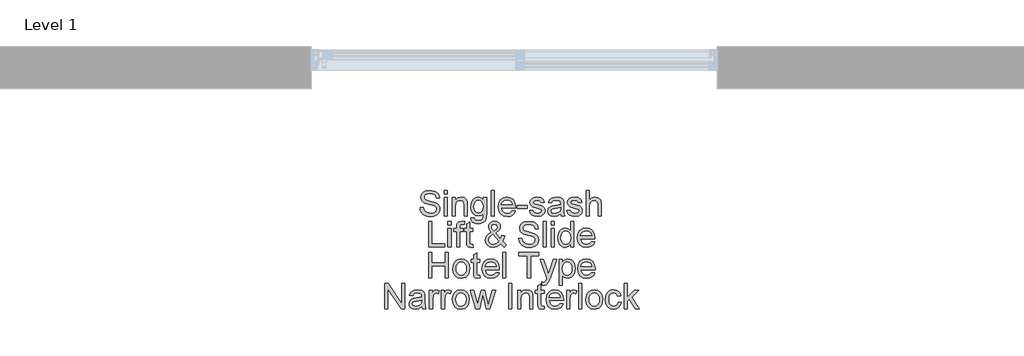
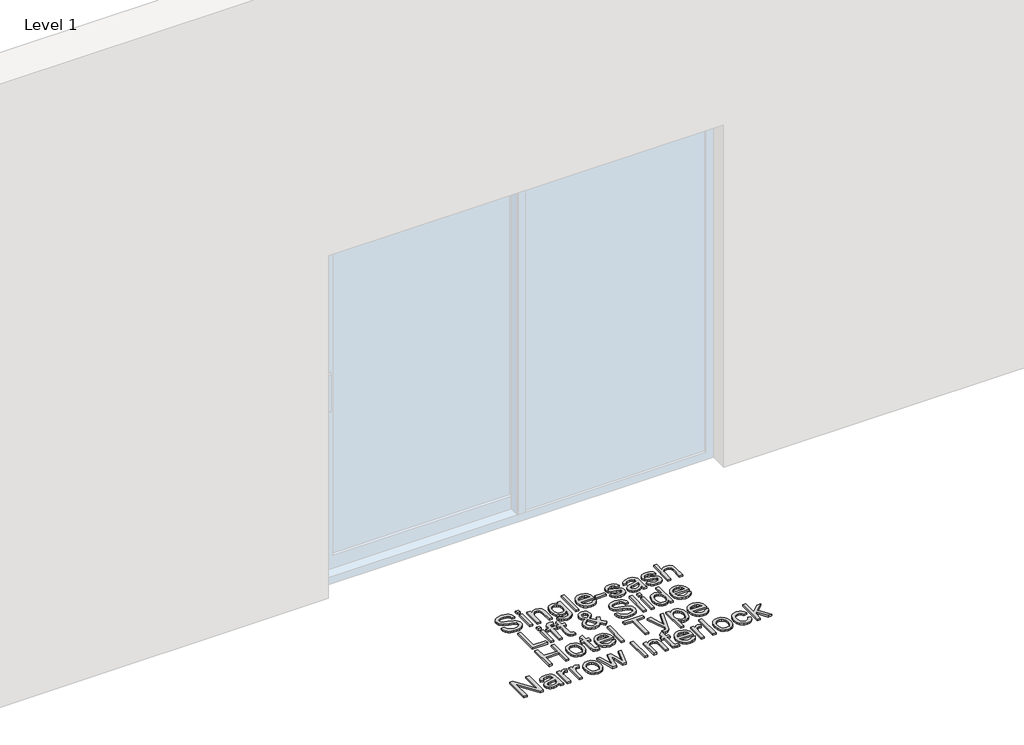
# One storey, part 9 of 17: 1 proxy.
"""IFC4 building model written with IfcOpenShell, lengths in millimetres."""

import ifcopenshell
import ifcopenshell.guid

model = None  # the IFC model being written
_history = None  # IfcOwnerHistory: only IFC2X3 demands one
_inside = {}  # id of a spatial element -> (the spatial element, [elements in it])
_under = {}  # id of a project, library or spatial element -> (it, [spatial elements below it])
_declared = {}  # id of a project -> (the project, [libraries it declares])
_typed = {}  # id of a type object -> (the type object, [elements of that type])
_made_of = {}  # id of a material, layer set ... -> (it, [elements and type objects made of it])


def new_model(schema):
    """Start an empty IFC model of exactly this schema.

    Asked for "IFC4X3", IfcOpenShell would pick the latest addendum, in which some entities
    have other attributes; the version numbers below select the first issue.
    IFC2X3 requires an IfcOwnerHistory on every rooted entity: one is made here for all.
    """
    global model, _history
    if schema == "IFC4X3":
        model = ifcopenshell.file(schema_version=(4, 3, 0, 0))
    else:
        model = ifcopenshell.file(schema=schema)
    _inside.clear()
    _under.clear()
    _declared.clear()
    _typed.clear()
    _made_of.clear()
    _history = None
    if model.schema == "IFC2X3":
        org = make("IfcOrganization", Name="unknown")
        user = make(
            "IfcPersonAndOrganization",
            ThePerson=make("IfcPerson", FamilyName="unknown"),
            TheOrganization=org,
        )
        app = make(
            "IfcApplication",
            ApplicationDeveloper=org,
            Version="unknown",
            ApplicationFullName="unknown",
            ApplicationIdentifier="unknown",
        )
        _history = make(
            "IfcOwnerHistory",
            OwningUser=user,
            OwningApplication=app,
            ChangeAction="ADDED",
            CreationDate=0,
        )
    return model


def make(cls, **values):
    """One entity of the class cls with the attributes given. An attribute that is None is left unset."""
    return model.create_entity(
        cls, **{name: value for name, value in values.items() if value is not None}
    )


def rooted(cls, **values):
    """An entity with a GlobalId (a new one), such as an element, a storey or a relation."""
    return make(cls, GlobalId=ifcopenshell.guid.new(), OwnerHistory=_history, **values)


def si_unit(unit_type, name, prefix=None):
    """IfcSIUnit, for example si_unit("LENGTHUNIT", "METRE", prefix="MILLI")."""
    return make("IfcSIUnit", UnitType=unit_type, Prefix=prefix, Name=name)


def assignment(units):
    """IfcUnitAssignment: the units of a project."""
    return None if units is None else make("IfcUnitAssignment", Units=units)


def point(xyz):
    """IfcCartesianPoint."""
    return None if xyz is None else make("IfcCartesianPoint", Coordinates=xyz)


def direction(xyz):
    """IfcDirection."""
    return None if xyz is None else make("IfcDirection", DirectionRatios=xyz)


def frame(location, z_axis=None, x_axis=None):
    """IfcAxis2Placement3D, a coordinate frame: its origin and axes. An axis left out is left unset."""
    return make(
        "IfcAxis2Placement3D",
        Location=point(location),
        Axis=direction(z_axis),
        RefDirection=direction(x_axis),
    )


def origin():
    """The frame at (0, 0, 0) with its axes left unset."""
    return frame((0.0, 0.0, 0.0))


def origin_with_axes():
    """The frame at (0, 0, 0) with the z axis (0, 0, 1) and the x axis (1, 0, 0) written out."""
    return frame((0.0, 0.0, 0.0), z_axis=(0.0, 0.0, 1.0), x_axis=(1.0, 0.0, 0.0))


def place(relative_to, where):
    """IfcLocalPlacement: puts the frame where relative to a parent placement (None: the world)."""
    return make(
        "IfcLocalPlacement", PlacementRelTo=relative_to, RelativePlacement=where
    )


def context(
    kind, dimensions, precision=None, world=None, true_north=None, identifier=None
):
    """IfcGeometricRepresentationContext, for example the 3D "Model" context."""
    return make(
        "IfcGeometricRepresentationContext",
        ContextIdentifier=identifier,
        ContextType=kind,
        CoordinateSpaceDimension=dimensions,
        Precision=precision,
        WorldCoordinateSystem=world,
        TrueNorth=true_north,
    )


def project(units=None, contexts=None):
    """IfcProject with its units and contexts."""
    return rooted(
        "IfcProject",
        Name="project",
        RepresentationContexts=contexts,
        UnitsInContext=assignment(units),
    )


def spatial(cls, under=None, at=None, **own):
    """A site, building, storey or space (cls), placed at a placement, below another one or the project."""
    s = rooted(cls, ObjectPlacement=at, **own)
    if under is not None:
        _under.setdefault(under.id(), (under, []))[1].append(s)
    return s


def polyline(points):
    """IfcPolyline through the points."""
    return make("IfcPolyline", Points=[point(p) for p in points])


def outline(outer, holes=None, kind="AREA"):
    """IfcArbitraryClosedProfileDef: a profile drawn as a closed curve; with holes, ...WithVoids."""
    if holes is None:
        return make("IfcArbitraryClosedProfileDef", ProfileType=kind, OuterCurve=outer)
    return make(
        "IfcArbitraryProfileDefWithVoids",
        ProfileType=kind,
        OuterCurve=outer,
        InnerCurves=holes,
    )


def extrude(swept, where, along, depth):
    """IfcExtrudedAreaSolid: the profile swept, set in the frame where, extruded along a direction by depth."""
    return make(
        "IfcExtrudedAreaSolid",
        SweptArea=swept,
        Position=where,
        ExtrudedDirection=direction(along),
        Depth=depth,
    )


def shape(context_of_items, identifier, shape_type, items):
    """IfcShapeRepresentation: the items that make up one representation, for example the "Body"."""
    return make(
        "IfcShapeRepresentation",
        ContextOfItems=context_of_items,
        RepresentationIdentifier=identifier,
        RepresentationType=shape_type,
        Items=items,
    )


def made_of(thing, what):
    """Note that an element or type object is made of a material, layer set ...; save() writes the relation."""
    if what is not None:
        _made_of.setdefault(what.id(), (what, []))[1].append(thing)
    return thing


def element(
    cls,
    number,
    at=None,
    inside=None,
    cuts=None,
    type_object=None,
    material=None,
    context=None,
    identifier="Body",
    shape_type=None,
    held_by="IfcProductDefinitionShape",
    body=None,
    shapes=None,
    **own,
):
    """One element of the class cls, such as IfcWall. Its Tag is "e" and its number.

    at: its placement. inside: the storey or other place that contains it. cuts: it is an
    opening in that element (IfcRelVoidsElement). A single representation is given by context,
    identifier, shape_type and body (its items); several are given by shapes. held_by: the class
    of the entity that holds the representations. save() writes the other relations.
    """
    e = rooted(cls, Tag="e%d" % number, ObjectPlacement=at, **own)
    if body is not None:
        shapes = [shape(context, identifier, shape_type, body)]
    if shapes is not None:
        e.Representation = make(held_by, Representations=shapes)
    if inside is not None:
        _inside.setdefault(inside.id(), (inside, []))[1].append(e)
    if cuts is not None:
        rooted(
            "IfcRelVoidsElement", RelatingBuildingElement=cuts, RelatedOpeningElement=e
        )
    if type_object is not None:
        _typed.setdefault(type_object.id(), (type_object, []))[1].append(e)
    return made_of(e, material)


def aggregate(whole, parts):
    """IfcRelAggregates: a whole, such as a stair, and the parts it consists of."""
    return rooted("IfcRelAggregates", RelatingObject=whole, RelatedObjects=parts)


def save(model, path):
    """Write the relations noted so far, then the file.

    IfcRelAggregates (storeys below a building ...), IfcRelContainedInSpatialStructure (elements
    in a storey), IfcRelDefinesByType, IfcRelAssociatesMaterial and IfcRelDeclares: one each for
    every whole, place, type object, material and project.
    """
    for whole, parts in _under.values():
        aggregate(whole, parts)
    for where, things in _inside.values():
        rooted(
            "IfcRelContainedInSpatialStructure",
            RelatedElements=things,
            RelatingStructure=where,
        )
    for kind, things in _typed.values():
        rooted("IfcRelDefinesByType", RelatedObjects=things, RelatingType=kind)
    for what, things in _made_of.values():
        rooted("IfcRelAssociatesMaterial", RelatedObjects=things, RelatingMaterial=what)
    for by, libraries in _declared.values():
        rooted("IfcRelDeclares", RelatingContext=by, RelatedDefinitions=libraries)
    model.write(path)


model = new_model("IFC4")

# Units and contexts
model_context = context("Model", 3, world=origin())
ifc_project = project(units=[si_unit("LENGTHUNIT", "METRE", prefix="MILLI")], contexts=[model_context])

# Site, building, storey
site = spatial("IfcSite", under=ifc_project)
building = spatial("IfcBuilding", under=site)
storey = spatial("IfcBuildingStorey", under=building, Name="Level 1", Elevation=0.0)

# Proxy
placement = place(None, origin())
element("IfcBuildingElementProxy", 1, Name="150mm Arial", ObjectType="150mm Arial", at=placement, inside=storey, context=model_context, shape_type="SweptSolid", body=[
    extrude(outline(polyline([(11021.3631783, -5845.8649684), (11040.1987364, -5845.8649684), (11046.2687894, -5864.7189207), (11061.0944338, -5876.6382973), (11083.6823883, -5881.18164), (11103.364075, -5877.7419433), (11116.074398, -5868.287376), (11120.2498586, -5855.6506295), (11117.1228616, -5843.8967997), (11104.3205682, -5835.3435434), (11076.8949655, -5828.1514504), (11047.3724354, -5818.86243), (11031.3511745, -5804.846126), (11026.0720678, -5786.1209324), (11027.7045442, -5775.0890711), (11032.6019732, -5764.8021708), (11040.6355963, -5756.0833675), (11051.6766547, -5749.7557972), (11079.5988981, -5744.6238433), (11109.3973397, -5749.9949205), (11120.8200757, -5756.6259934), (11129.2629675, -5765.7770581), (11134.6064535, -5776.8778973), (11136.730972, -5789.358294), (11117.8954138, -5789.358294), (11114.4373231, -5778.119499), (11107.226836, -5770.007701), (11095.9604499, -5765.0964764), (11080.3346621, -5763.4594015), (11064.3409924, -5765.0780823), (11053.3689119, -5769.9341246), (11047.0229475, -5777.0802324), (11044.907626, -5785.5691094), (11046.4067451, -5792.8071877), (11050.9041025, -5798.6289202), (11081.6590373, -5809.1503453), (11114.9891461, -5818.6049126), (11125.7267018, -5825.4383206), (11133.2176989, -5833.8720154), (11137.6184873, -5843.8140263), (11139.0854168, -5855.1723829), (11137.3977581, -5866.7836584), (11132.3347821, -5877.7051551), (11124.1034225, -5887.1045401), (11112.9106128, -5894.1494803), (11099.4507303, -5898.5502687), (11084.4181523, -5900.0171981), (11065.9642717, -5898.4353055), (11050.7753438, -5893.6896278), (11038.6766247, -5885.7617708), (11029.4933704, -5874.6333404), (11023.5980614, -5861.0768889), (11021.3631783, -5845.8649684)])), origin_with_axes(), (0.0, 0.0, 1.0), 10.0),
    extrude(outline(polyline([(11164.9843092, -5897.6627533), (11164.9843092, -5787.0038492), (11183.8198674, -5787.0038492), (11183.8198674, -5897.6627533), (11164.9843092, -5897.6627533)])), origin_with_axes(), (0.0, 0.0, 1.0), 10.0),
    extrude(outline(polyline([(11164.9843092, -5765.8138463), (11164.9843092, -5746.9782881), (11183.8198674, -5746.9782881), (11183.8198674, -5765.8138463), (11164.9843092, -5765.8138463)])), origin_with_axes(), (0.0, 0.0, 1.0), 10.0),
    extrude(outline(polyline([(11212.0732046, -5897.6627533), (11212.0732046, -5787.0038492), (11230.9087627, -5787.0038492), (11230.9087627, -5802.454893), (11245.3113429, -5789.1007766), (11264.9746355, -5784.6494044), (11282.76173, -5788.2362539), (11294.9018358, -5797.654033), (11300.5488244, -5811.5047901), (11301.5421058, -5829.7149488), (11301.5421058, -5897.6627533), (11282.7065477, -5897.6627533), (11282.7065477, -5832.2533346), (11280.5360439, -5815.5882802), (11272.8657043, -5806.7775064), (11259.9346522, -5803.4849626), (11248.9027908, -5805.3335696), (11239.4988073, -5810.8793907), (11233.0562739, -5821.5939538), (11230.9087627, -5838.9487869), (11230.9087627, -5897.6627533), (11212.0732046, -5897.6627533)])), origin_with_axes(), (0.0, 0.0, 1.0), 10.0),
    extrude(outline(polyline([(11322.7321087, -5907.0805324), (11341.5676669, -5909.4349772), (11347.674508, -5919.3677911), (11365.9582432, -5923.5616458), (11385.2352597, -5918.8159681), (11394.4323096, -5905.4986398), (11395.7198966, -5883.5360847), (11382.4577507, -5894.1310862), (11366.289337, -5897.6627533), (11346.8697662, -5893.551672), (11332.3890111, -5881.2184282), (11323.3805008, -5863.1370281), (11320.377664, -5841.7814783), (11325.7671352, -5812.590042), (11332.36142, -5800.7396432), (11341.3653318, -5791.9334679), (11352.4707695, -5786.4704203), (11365.369632, -5784.6494044), (11382.1726421, -5788.7696828), (11395.7198966, -5801.1305178), (11395.7198966, -5787.0038492), (11414.5554547, -5787.0038492), (11414.5554547, -5882.5428033), (11413.2678678, -5904.6019275), (11409.4051068, -5919.1286678), (11402.7510412, -5928.7625775), (11393.0895403, -5936.14321), (11380.6321363, -5940.8337055), (11365.5903612, -5942.397204), (11348.0653826, -5940.1945105), (11334.2652093, -5933.5864302), (11325.4130488, -5922.5545688), (11322.7321087, -5907.0805324)]), holes=[polyline([(11339.2132221, -5840.4938913), (11341.2227775, -5857.7705495), (11347.2514437, -5869.6485394), (11356.3151364, -5876.5325312), (11367.4297712, -5878.8271952), (11378.4616325, -5876.5463268), (11387.5713104, -5869.7037217), (11393.68275, -5857.9774831), (11395.7198966, -5841.0457143), (11393.6229692, -5824.7163522), (11387.3321871, -5812.957924), (11378.089152, -5805.8532029), (11367.1354656, -5803.4849626), (11356.3795157, -5805.8164147), (11347.3618083, -5812.8107712), (11341.2503687, -5824.3944555), (11339.2132221, -5840.4938913)])]), origin_with_axes(), (0.0, 0.0, 1.0), 10.0),
    extrude(outline(polyline([(11442.808792, -5897.6627533), (11442.808792, -5746.9782881), (11461.6443501, -5746.9782881), (11461.6443501, -5897.6627533), (11442.808792, -5897.6627533)])), origin_with_axes(), (0.0, 0.0, 1.0), 10.0),
    extrude(outline(polyline([(11567.3736355, -5864.7005266), (11585.8413117, -5867.0549713), (11579.1872461, -5880.9701078), (11568.569252, -5891.3719712), (11554.2264527, -5897.8558914), (11536.3979715, -5900.0171981), (11514.2974607, -5896.2877944), (11497.2921155, -5885.0995832), (11486.4487936, -5867.1791315), (11482.834353, -5843.2530063), (11486.4855818, -5818.5221391), (11497.4392683, -5800.0268718), (11514.2146872, -5788.4937713), (11535.3311138, -5784.6494044), (11555.7899512, -5788.4845742), (11572.1377074, -5799.9900836), (11582.856869, -5818.4485627), (11586.4299229, -5843.1426417), (11586.3195583, -5848.2194132), (11501.6699112, -5848.2194132), (11504.9302654, -5862.3184907), (11512.504036, -5872.6835659), (11523.4347297, -5879.0571214), (11536.7658535, -5881.18164), (11555.2335297, -5877.2453026), (11567.3736355, -5864.7005266)]), holes=[polyline([(11501.6699112, -5829.383855), (11567.5943647, -5829.383855), (11565.0467819, -5819.4326471), (11560.0527838, -5812.3141305), (11549.0715063, -5805.6922545), (11535.2575374, -5803.4849626), (11522.56101, -5805.2461976), (11512.0625776, -5810.5299028), (11504.7647185, -5818.765861), (11501.6699112, -5829.383855)])]), origin_with_axes(), (0.0, 0.0, 1.0), 10.0),
    extrude(outline(polyline([(11595.847702, -5852.9283027), (11595.847702, -5834.0927446), (11654.7088212, -5834.0927446), (11654.7088212, -5852.9283027), (11595.847702, -5852.9283027)])), origin_with_axes(), (0.0, 0.0, 1.0), 10.0),
    extrude(outline(polyline([(11668.8354898, -5864.7005266), (11687.671048, -5862.3460818), (11690.6416951, -5870.4026975), (11696.3898512, -5876.3255976), (11716.3658436, -5881.18164), (11735.5692837, -5876.7302678), (11741.8232776, -5866.2824192), (11740.2505821, -5861.4815591), (11735.5324955, -5857.8211333), (11716.1451144, -5852.4500561), (11687.7814126, -5843.2346122), (11675.4021834, -5832.4740638), (11671.1899346, -5817.2805374), (11674.5744489, -5803.2458393), (11683.808287, -5792.5220791), (11695.782846, -5786.9486669), (11711.9880478, -5784.6494044), (11734.9070961, -5788.3466185), (11749.4752231, -5798.3530087), (11755.9499463, -5815.2571864), (11737.1143881, -5817.6116312), (11730.0326597, -5807.2189648), (11713.4595758, -5803.4849626), (11695.4333581, -5807.0534179), (11690.0254927, -5815.367551), (11692.2695729, -5820.8489927), (11699.296119, -5825.0060593), (11715.519715, -5829.015973), (11743.1660469, -5837.8819291), (11756.0051286, -5847.9251076), (11760.6588358, -5864.2958564), (11755.1957882, -5882.3220741), (11739.4320447, -5895.4002791), (11716.1083262, -5900.0171981), (11697.1164182, -5897.791512), (11683.256464, -5891.1144538), (11674.0042318, -5880.0595999), (11668.8354898, -5864.7005266)])), origin_with_axes(), (0.0, 0.0, 1.0), 10.0),
    extrude(outline(polyline([(11852.4821818, -5883.5360847), (11834.2168407, -5896.30159), (11814.0385133, -5900.0171981), (11798.2977624, -5897.782315), (11786.686487, -5891.0776656), (11779.5265836, -5880.8965314), (11777.1399492, -5868.2321937), (11780.7451927, -5853.3329729), (11790.2181541, -5842.5172423), (11803.4067236, -5836.3368247), (11819.703896, -5833.5041334), (11852.3718172, -5827.0294103), (11852.4821818, -5822.8355555), (11851.1853978, -5814.4294519), (11847.2950457, -5808.9296161), (11838.5946365, -5804.846126), (11826.4729247, -5803.4849626), (11807.4166374, -5807.1086002), (11798.3299521, -5819.966076), (11779.494394, -5817.6116312), (11787.6429801, -5799.2175314), (11804.0505171, -5788.438589), (11828.9009459, -5784.6494044), (11851.7280237, -5787.9971306), (11864.6222876, -5796.4032342), (11870.398035, -5809.1871335), (11871.31774, -5825.6682469), (11871.31774, -5849.10233), (11872.2742331, -5881.8254334), (11876.0266295, -5897.6627533), (11857.1910713, -5897.6627533), (11852.4821818, -5883.5360847)]), holes=[polyline([(11852.4821818, -5845.8649684), (11822.095129, -5851.6407157), (11805.8899271, -5854.6941363), (11798.5506813, -5859.6605432), (11795.9755073, -5866.9078185), (11801.5857078, -5877.0981498), (11818.048427, -5881.18164), (11837.1047144, -5876.6750855), (11849.391973, -5865.7673844), (11852.3718172, -5851.1992574), (11852.4821818, -5845.8649684)])]), origin_with_axes(), (0.0, 0.0, 1.0), 10.0),
    extrude(outline(polyline([(11890.1532981, -5864.7005266), (11908.9888563, -5862.3460818), (11911.9595034, -5870.4026975), (11917.7076595, -5876.3255976), (11937.6836519, -5881.18164), (11956.887092, -5876.7302678), (11963.1410859, -5866.2824192), (11961.5683904, -5861.4815591), (11956.8503038, -5857.8211333), (11937.4629227, -5852.4500561), (11909.0992209, -5843.2346122), (11896.7199917, -5832.4740638), (11892.5077429, -5817.2805374), (11895.8922572, -5803.2458393), (11905.1260953, -5792.5220791), (11917.1006543, -5786.9486669), (11933.3058561, -5784.6494044), (11956.2249044, -5788.3466185), (11970.7930314, -5798.3530087), (11977.2677546, -5815.2571864), (11958.4321964, -5817.6116312), (11951.350468, -5807.2189648), (11934.7773841, -5803.4849626), (11916.7511664, -5807.0534179), (11911.343301, -5815.367551), (11913.5873812, -5820.8489927), (11920.6139273, -5825.0060593), (11936.8375233, -5829.015973), (11964.4838552, -5837.8819291), (11977.3229369, -5847.9251076), (11981.9766441, -5864.2958564), (11976.5135965, -5882.3220741), (11960.749853, -5895.4002791), (11937.4261345, -5900.0171981), (11918.4342265, -5897.791512), (11904.5742723, -5891.1144538), (11895.3220401, -5880.0595999), (11890.1532981, -5864.7005266)])), origin_with_axes(), (0.0, 0.0, 1.0), 10.0),
    extrude(outline(polyline([(12003.166647, -5897.6627533), (12003.166647, -5746.9782881), (12022.0022052, -5746.9782881), (12022.0022052, -5802.3813166), (12036.6898938, -5789.0823825), (12054.7804909, -5784.6494044), (12075.9337057, -5789.4870527), (12088.7727873, -5802.8595632), (12092.6355482, -5827.6180215), (12092.6355482, -5897.6627533), (12073.7999901, -5897.6627533), (12073.7999901, -5829.567796), (12072.300871, -5817.7771781), (12067.8035136, -5809.7021683), (12060.5562383, -5805.039264), (12050.8073654, -5803.4849626), (12035.3747157, -5807.6788173), (12025.0740198, -5819.046371), (12022.0022052, -5838.8752105), (12022.0022052, -5897.6627533), (12003.166647, -5897.6627533)])), origin_with_axes(), (0.0, 0.0, 1.0), 10.0),
    extrude(outline(polyline([(11073.1609632, -6080.6249801), (11073.1609632, -5929.9405149), (11091.9965214, -5929.9405149), (11091.9965214, -6061.789422), (11167.338754, -6061.789422), (11167.338754, -6080.6249801), (11073.1609632, -6080.6249801)])), origin_with_axes(), (0.0, 0.0, 1.0), 10.0),
    extrude(outline(polyline([(11186.1743121, -5948.776073), (11186.1743121, -5929.9405149), (11205.0098703, -5929.9405149), (11205.0098703, -5948.776073), (11186.1743121, -5948.776073)])), origin_with_axes(), (0.0, 0.0, 1.0), 10.0),
    extrude(outline(polyline([(11186.1743121, -6080.6249801), (11186.1743121, -5969.966076), (11205.0098703, -5969.966076), (11205.0098703, -6080.6249801), (11186.1743121, -6080.6249801)])), origin_with_axes(), (0.0, 0.0, 1.0), 10.0),
    extrude(outline(polyline([(11237.9720971, -6080.6249801), (11237.9720971, -5988.8016341), (11221.4909837, -5988.8016341), (11221.4909837, -5969.966076), (11237.9720971, -5969.966076), (11237.9720971, -5958.8192515), (11239.9586598, -5943.1106903), (11249.5971681, -5931.8902895), (11268.5798791, -5927.5860701), (11285.7599682, -5929.6462093), (11283.0008533, -5947.3045451), (11272.1483344, -5946.4216283), (11260.2841401, -5949.5486252), (11256.8076552, -5961.2104845), (11256.8076552, -5969.966076), (11277.9976581, -5969.966076), (11277.9976581, -5988.8016341), (11256.8076552, -5988.8016341), (11256.8076552, -6080.6249801), (11237.9720971, -6080.6249801)])), origin_with_axes(), (0.0, 0.0, 1.0), 10.0),
    extrude(outline(polyline([(11334.5043326, -6064.9164189), (11336.8587774, -6081.1768031), (11322.7688969, -6082.9794249), (11306.9867593, -6079.8524279), (11299.1140847, -6071.6486594), (11296.8332163, -6050.2747155), (11296.8332163, -5988.8016341), (11282.7065477, -5988.8016341), (11282.7065477, -5969.966076), (11296.8332163, -5969.966076), (11296.8332163, -5943.0739021), (11315.6687744, -5932.0006541), (11315.6687744, -5969.966076), (11334.5043326, -5969.966076), (11334.5043326, -5988.8016341), (11315.6687744, -5988.8016341), (11315.6687744, -6049.7228925), (11316.6620558, -6059.4349772), (11319.8810233, -6062.8746738), (11326.3005641, -6064.1438667), (11334.5043326, -6064.9164189)])), origin_with_axes(), (0.0, 0.0, 1.0), 10.0),
    extrude(outline(polyline([(11498.6164906, -6062.0101512), (11478.6404983, -6077.7371064), (11455.2799916, -6082.9794249), (11434.4946589, -6079.0982698), (11418.4917921, -6067.4548047), (11410.2420383, -6054.054703), (11407.4921204, -6039.1646793), (11409.7040109, -6025.9669127), (11416.3396824, -6014.1119154), (11427.3715437, -6003.6088844), (11442.7720038, -5994.4670168), (11429.6202224, -5975.4107295), (11426.3276786, -5961.2840609), (11428.9212467, -5948.5645409), (11436.7019508, -5937.6292486), (11448.4097953, -5930.0968647), (11462.7847843, -5927.5860701), (11476.4607975, -5929.9865001), (11487.3960898, -5937.1877902), (11494.5697887, -5947.7552005), (11496.9610217, -5960.2539913), (11495.1905896, -5970.7478252), (11489.8792933, -5980.4507128), (11468.634108, -5997.4836492), (11495.8941639, -6031.4391574), (11504.024356, -6010.5802482), (11522.8599141, -6014.6637384), (11509.5425859, -6045.6761906), (11532.2776932, -6068.4848743), (11518.1510246, -6082.9794249), (11498.6164906, -6062.0101512)]), holes=[polyline([(11459.1059644, -5985.6010608), (11474.5937964, -5973.9208074), (11478.1254635, -5962.8291653), (11473.4717563, -5951.0017591), (11461.8282911, -5946.4216283), (11449.9273086, -5950.9649709), (11445.1632367, -5962.0566131), (11446.7819175, -5968.9544005), (11451.6747481, -5976.6247401), (11459.1059644, -5985.6010608)]), polyline([(11485.9981382, -6048.4353055), (11452.3737238, -6006.4599699), (11431.6803616, -6022.2421075), (11426.3276786, -6036.6630817), (11428.1578915, -6045.5474319), (11433.6485303, -6054.7628758), (11442.4960923, -6061.798619), (11454.3970748, -6064.1438667), (11471.7059227, -6059.766071), (11485.9981382, -6048.4353055)])]), origin_with_axes(), (0.0, 0.0, 1.0), 10.0),
    extrude(outline(polyline([(11605.265481, -6028.8271952), (11624.1010392, -6028.8271952), (11630.1710921, -6047.6811474), (11644.9967365, -6059.6005241), (11667.584691, -6064.1438667), (11687.2663778, -6060.7041701), (11699.9767007, -6051.2496028), (11704.1521613, -6038.6128563), (11701.0251644, -6026.8590265), (11688.222871, -6018.3057701), (11660.7972682, -6011.1136771), (11631.2747381, -6001.8246567), (11615.2534772, -5987.8083527), (11609.9743706, -5969.0831592), (11611.6068469, -5958.0512978), (11616.504276, -5947.7643976), (11624.5378991, -5939.0455943), (11635.5789574, -5932.7180239), (11663.5012009, -5927.5860701), (11693.2996425, -5932.9571472), (11704.7223784, -5939.5882202), (11713.1652702, -5948.7392848), (11718.5087562, -5959.840124), (11720.6332747, -5972.3205207), (11701.7977166, -5972.3205207), (11698.3396258, -5961.0817258), (11691.1291387, -5952.9699278), (11679.8627526, -5948.0587031), (11664.2369649, -5946.4216283), (11648.2432951, -5948.040309), (11637.2712146, -5952.8963514), (11630.9252502, -5960.0424591), (11628.8099287, -5968.5313362), (11630.3090479, -5975.7694144), (11634.8064053, -5981.591147), (11665.56134, -5992.1125721), (11698.8914488, -6001.5671393), (11709.6290045, -6008.4005474), (11717.1200017, -6016.8342421), (11721.52079, -6026.7762531), (11722.9877195, -6038.1346097), (11721.3000608, -6049.7458851), (11716.2370849, -6060.6673819), (11708.0057252, -6070.0667668), (11696.8129155, -6077.1117071), (11683.353033, -6081.5124954), (11668.320455, -6082.9794249), (11649.8665744, -6081.3975323), (11634.6776466, -6076.6518546), (11622.5789274, -6068.7239976), (11613.3956731, -6057.5955672), (11607.5003642, -6044.0391157), (11605.265481, -6028.8271952)])), origin_with_axes(), (0.0, 0.0, 1.0), 10.0),
    extrude(outline(polyline([(11748.886612, -6080.6249801), (11748.886612, -5929.9405149), (11767.7221701, -5929.9405149), (11767.7221701, -6080.6249801), (11748.886612, -6080.6249801)])), origin_with_axes(), (0.0, 0.0, 1.0), 10.0),
    extrude(outline(polyline([(11795.9755073, -5948.776073), (11795.9755073, -5929.9405149), (11814.8110655, -5929.9405149), (11814.8110655, -5948.776073), (11795.9755073, -5948.776073)])), origin_with_axes(), (0.0, 0.0, 1.0), 10.0),
    extrude(outline(polyline([(11795.9755073, -6080.6249801), (11795.9755073, -5969.966076), (11814.8110655, -5969.966076), (11814.8110655, -6080.6249801), (11795.9755073, -6080.6249801)])), origin_with_axes(), (0.0, 0.0, 1.0), 10.0),
    extrude(outline(polyline([(11911.343301, -6080.6249801), (11911.343301, -6062.8562797), (11898.8812984, -6077.9486386), (11881.655224, -6082.9794249), (11869.47833, -6081.158409), (11858.3315055, -6075.6953614), (11848.8953323, -6066.9719596), (11841.8503921, -6055.3698811), (11837.4633993, -6041.3581756), (11836.0010684, -6025.4058926), (11841.3905396, -5995.42351), (11848.1227802, -5983.5317245), (11857.5405592, -5974.7853301), (11868.9311055, -5969.4050559), (11881.5816476, -5967.6116312), (11898.9456778, -5972.743585), (11911.343301, -5986.0793073), (11911.343301, -5929.9405149), (11930.1788592, -5929.9405149), (11930.1788592, -6080.6249801), (11911.343301, -6080.6249801)]), holes=[polyline([(11854.8366266, -6025.3323162), (11856.9611451, -6042.3698511), (11863.3347007, -6054.4869644), (11872.5961299, -6061.7296411), (11883.3842694, -6064.1438667), (11894.1678104, -6061.8400057), (11903.1947148, -6054.9284227), (11909.3061545, -6043.2803591), (11911.343301, -6026.767056), (11909.2693663, -6008.7132471), (11903.047562, -5996.1960622), (11893.7907313, -5988.8844076), (11882.6117172, -5986.4471893), (11871.7132131, -5988.7878385), (11862.7828777, -5995.8097861), (11856.8231893, -6007.871717), (11854.8366266, -6025.3323162)])]), origin_with_axes(), (0.0, 0.0, 1.0), 10.0),
    extrude(outline(polyline([(12035.9081446, -6047.6627533), (12054.3758208, -6050.0171981), (12047.7217552, -6063.9323346), (12037.1037611, -6074.334198), (12022.7609618, -6080.8181182), (12004.9324806, -6082.9794249), (11982.8319697, -6079.2500212), (11965.8266245, -6068.06181), (11954.9833027, -6050.1413583), (11951.3688621, -6026.215233), (11955.0200909, -6001.4843659), (11965.9737773, -5982.9890986), (11982.7491963, -5971.455998), (12003.8656228, -5967.6116312), (12024.3244603, -5971.446801), (12040.6722164, -5982.9523104), (12051.3913781, -6001.4107895), (12054.9644319, -6026.1048684), (12054.8540673, -6031.18164), (11970.2044203, -6031.18164), (11973.4647744, -6045.2807174), (11981.038545, -6055.6457926), (11991.9692388, -6062.0193482), (12005.3003626, -6064.1438667), (12023.7680388, -6060.2075294), (12035.9081446, -6047.6627533)]), holes=[polyline([(11970.2044203, -6012.3460818), (12036.1288738, -6012.3460818), (12033.581291, -6002.3948738), (12028.5872929, -5995.2763572), (12017.6060153, -5988.6544813), (12003.7920464, -5986.4471893), (11991.0955191, -5988.2084244), (11980.5970866, -5993.4921296), (11973.2992275, -6001.7280877), (11970.2044203, -6012.3460818)])]), origin_with_axes(), (0.0, 0.0, 1.0), 10.0),
    extrude(outline(polyline([(11071.9837408, -6263.5872069), (11071.9837408, -6112.9027417), (11090.819299, -6112.9027417), (11090.819299, -6174.1183057), (11170.8704211, -6174.1183057), (11170.8704211, -6112.9027417), (11189.7059793, -6112.9027417), (11189.7059793, -6263.5872069), (11170.8704211, -6263.5872069), (11170.8704211, -6192.9538638), (11090.819299, -6192.9538638), (11090.819299, -6263.5872069), (11071.9837408, -6263.5872069)])), origin_with_axes(), (0.0, 0.0, 1.0), 10.0),
    extrude(outline(polyline([(11215.6048717, -6208.2577548), (11219.6791648, -6181.5771131), (11231.9020441, -6162.8243284), (11247.0036, -6153.6364756), (11265.0850001, -6150.573858), (11284.8724529, -6154.3032617), (11300.6775831, -6165.4914729), (11311.0380598, -6183.2555747), (11314.4915521, -6206.7126504), (11312.9648418, -6225.7413466), (11308.3847109, -6240.2267002), (11300.8845168, -6251.0746205), (11290.5976165, -6259.191017), (11278.3793357, -6264.253993), (11265.0850001, -6265.9416516), (11245.058424, -6262.2260435), (11229.2716879, -6251.079219), (11219.0215758, -6232.9426367), (11215.6048717, -6208.2577548)]), holes=[polyline([(11234.4404299, -6208.2209666), (11236.6201307, -6225.2676986), (11243.1592332, -6237.4124029), (11253.0000766, -6244.6826709), (11265.0850001, -6247.1060935), (11277.1147413, -6244.6688753), (11286.9371906, -6237.3572206), (11293.4762931, -6225.0515679), (11295.6559939, -6207.6323554), (11293.4624975, -6191.0822642), (11286.8820083, -6179.1031067), (11277.0457635, -6171.8328388), (11265.0850001, -6169.4094161), (11253.0000766, -6171.8236417), (11243.1592332, -6179.0663185), (11236.6201307, -6191.1834317), (11234.4404299, -6208.2209666)])]), origin_with_axes(), (0.0, 0.0, 1.0), 10.0),
    extrude(outline(polyline([(11375.707116, -6247.8786457), (11378.0615608, -6264.1390299), (11363.9716804, -6265.9416516), (11348.1895428, -6262.8146547), (11340.3168681, -6254.6108862), (11338.0359997, -6233.2369423), (11338.0359997, -6171.7638609), (11323.9093311, -6171.7638609), (11323.9093311, -6152.9283027), (11338.0359997, -6152.9283027), (11338.0359997, -6126.0361289), (11356.8715579, -6114.9628808), (11356.8715579, -6152.9283027), (11375.707116, -6152.9283027), (11375.707116, -6171.7638609), (11356.8715579, -6171.7638609), (11356.8715579, -6232.6851193), (11357.8648393, -6242.397204), (11361.0838067, -6245.8369006), (11367.5033476, -6247.1060935), (11375.707116, -6247.8786457)])), origin_with_axes(), (0.0, 0.0, 1.0), 10.0),
    extrude(outline(polyline([(11472.0186224, -6230.6249801), (11490.4862985, -6232.9794249), (11483.832233, -6246.8945613), (11473.2142389, -6257.2964248), (11458.8714396, -6263.7803449), (11441.0429584, -6265.9416516), (11418.9424475, -6262.2122479), (11401.9371023, -6251.0240367), (11391.0937805, -6233.1035851), (11387.4793399, -6209.1774598), (11391.1305687, -6184.4465927), (11402.0842551, -6165.9513254), (11418.8596741, -6154.4182248), (11439.9761006, -6150.573858), (11460.4349381, -6154.4090278), (11476.7826942, -6165.9145372), (11487.5018559, -6184.3730163), (11491.0749097, -6209.0670952), (11490.9645451, -6214.1438667), (11406.314898, -6214.1438667), (11409.5752522, -6228.2429442), (11417.1490228, -6238.6080194), (11428.0797166, -6244.981575), (11441.4108404, -6247.1060935), (11459.8785165, -6243.1697561), (11472.0186224, -6230.6249801)]), holes=[polyline([(11406.314898, -6195.3083086), (11472.2393516, -6195.3083086), (11469.6917688, -6185.3571006), (11464.6977707, -6178.238584), (11453.7164931, -6171.6167081), (11439.9025242, -6169.4094161), (11427.2059968, -6171.1706512), (11416.7075644, -6176.4543563), (11409.4097053, -6184.6903145), (11406.314898, -6195.3083086)])]), origin_with_axes(), (0.0, 0.0, 1.0), 10.0),
    extrude(outline(polyline([(11509.9104679, -6263.5872069), (11509.9104679, -6112.9027417), (11528.746026, -6112.9027417), (11528.746026, -6263.5872069), (11509.9104679, -6263.5872069)])), origin_with_axes(), (0.0, 0.0, 1.0), 10.0),
    extrude(outline(polyline([(11655.8860436, -6263.5872069), (11655.8860436, -6131.7382998), (11606.4427034, -6131.7382998), (11606.4427034, -6112.9027417), (11724.1649419, -6112.9027417), (11724.1649419, -6131.7382998), (11674.7216017, -6131.7382998), (11674.7216017, -6263.5872069), (11655.8860436, -6263.5872069)])), origin_with_axes(), (0.0, 0.0, 1.0), 10.0),
    extrude(outline(polyline([(11743.0005, -6305.9672127), (11740.6460553, -6287.8306304), (11750.2109871, -6289.4860993), (11759.1505196, -6287.4075661), (11764.6319613, -6281.6134246), (11769.7823093, -6267.7442734), (11771.2538373, -6263.1825367), (11731.2282762, -6152.9283027), (11751.0939039, -6152.9283027), (11772.320695, -6214.3645959), (11779.7151232, -6238.9391132), (11787.1095513, -6217.2340755), (11808.9249536, -6152.9283027), (11828.6434285, -6152.9283027), (11790.1261836, -6266.2359572), (11780.1197933, -6290.8104745), (11769.1936981, -6304.0910145), (11754.5152065, -6308.3216575), (11743.0005, -6305.9672127)])), origin_with_axes(), (0.0, 0.0, 1.0), 10.0),
    extrude(outline(polyline([(11844.2416251, -6305.9672127), (11844.2416251, -6152.9283027), (11863.0771833, -6152.9283027), (11863.0771833, -6171.3959789), (11876.1002059, -6155.7793882), (11893.6849653, -6150.573858), (11906.4228793, -6152.3948738), (11917.5605067, -6157.8579215), (11926.6287979, -6166.631907), (11933.1587033, -6178.3857368), (11938.4194159, -6207.4116262), (11936.9340923, -6223.5202591), (11932.4781216, -6237.9274377), (11925.1940581, -6249.9019967), (11915.2244561, -6258.7127704), (11903.6131806, -6264.1344313), (11891.4040969, -6265.9416516), (11875.014954, -6261.1040034), (11863.0771833, -6248.8719271), (11863.0771833, -6305.9672127), (11844.2416251, -6305.9672127)]), holes=[polyline([(11863.0771833, -6209.1406716), (11865.1143298, -6226.0264552), (11871.2257695, -6237.8354672), (11880.2434769, -6244.7884369), (11890.9994267, -6247.1060935), (11901.9301205, -6244.7056635), (11911.1777541, -6237.5043734), (11917.4823318, -6225.2631), (11919.5838577, -6207.74272), (11917.5329156, -6190.9489069), (11911.3800892, -6178.974348), (11902.3761774, -6171.8006491), (11891.7719789, -6169.4094161), (11881.1263936, -6171.9524004), (11871.7775924, -6179.5813533), (11865.2522856, -6192.0571514), (11863.0771833, -6209.1406716)])]), origin_with_axes(), (0.0, 0.0, 1.0), 10.0),
    extrude(outline(polyline([(12037.085367, -6230.6249801), (12055.5530431, -6232.9794249), (12048.8989775, -6246.8945613), (12038.2809835, -6257.2964248), (12023.9381842, -6263.7803449), (12006.109703, -6265.9416516), (11984.0091921, -6262.2122479), (11967.0038469, -6251.0240367), (11956.1605251, -6233.1035851), (11952.5460845, -6209.1774598), (11956.1973133, -6184.4465927), (11967.1509997, -6165.9513254), (11983.9264187, -6154.4182248), (12005.0428452, -6150.573858), (12025.5016827, -6154.4090278), (12041.8494388, -6165.9145372), (12052.5686004, -6184.3730163), (12056.1416543, -6209.0670952), (12056.0312897, -6214.1438667), (11971.3816426, -6214.1438667), (11974.6419968, -6228.2429442), (11982.2157674, -6238.6080194), (11993.1464612, -6244.981575), (12006.477585, -6247.1060935), (12024.9452611, -6243.1697561), (12037.085367, -6230.6249801)]), holes=[polyline([(11971.3816426, -6195.3083086), (12037.3060962, -6195.3083086), (12034.7585134, -6185.3571006), (12029.7645153, -6178.238584), (12018.7832377, -6171.6167081), (12004.9692688, -6169.4094161), (11992.2727414, -6171.1706512), (11981.774309, -6176.4543563), (11974.4764499, -6184.6903145), (11971.3816426, -6195.3083086)])]), origin_with_axes(), (0.0, 0.0, 1.0), 10.0),
    extrude(outline(polyline([(10812.9948162, -6446.5494336), (10812.9948162, -6295.8649684), (10833.1547496, -6295.8649684), (10911.8814965, -6415.2426759), (10911.8814965, -6295.8649684), (10930.7170547, -6295.8649684), (10930.7170547, -6446.5494336), (10910.5571213, -6446.5494336), (10831.8303744, -6327.134938), (10831.8303744, -6446.5494336), (10812.9948162, -6446.5494336)])), origin_with_axes(), (0.0, 0.0, 1.0), 10.0),
    extrude(outline(polyline([(11031.9581798, -6432.422765), (11013.6928387, -6445.1882703), (10993.5145113, -6448.9038784), (10977.7737604, -6446.6689953), (10966.1624849, -6439.9643459), (10959.0025816, -6429.7832117), (10956.6159471, -6417.118874), (10960.2211907, -6402.2196532), (10969.6941521, -6391.4039226), (10982.8827216, -6385.223505), (10999.179894, -6382.3908137), (11031.8478152, -6375.9160906), (11031.9581798, -6371.7222358), (11030.6613957, -6363.3161322), (11026.7710436, -6357.8162964), (11018.0706344, -6353.7328063), (11005.9489227, -6352.3716429), (10986.8926353, -6355.9952805), (10977.8059501, -6368.8527563), (10958.9703919, -6366.4983115), (10967.1189781, -6348.1042117), (10983.5265151, -6337.3252693), (11008.3769439, -6333.5360847), (11031.2040217, -6336.8838109), (11044.0982856, -6345.2899145), (11049.8740329, -6358.0738138), (11050.7937379, -6374.5549272), (11050.7937379, -6397.9890103), (11051.7502311, -6430.7121138), (11055.5026274, -6446.5494336), (11036.6670693, -6446.5494336), (11031.9581798, -6432.422765)]), holes=[polyline([(11031.9581798, -6394.7516487), (11001.571127, -6400.527396), (10985.3659251, -6403.5808166), (10978.0266793, -6408.5472235), (10975.4515053, -6415.7944988), (10981.0617057, -6425.9848301), (10997.524425, -6430.0683203), (11016.5807124, -6425.5617658), (11028.867971, -6414.6540647), (11031.8478152, -6400.0859377), (11031.9581798, -6394.7516487)])]), origin_with_axes(), (0.0, 0.0, 1.0), 10.0),
    extrude(outline(polyline([(11076.6926304, -6446.5494336), (11076.6926304, -6335.8905295), (11093.1737438, -6335.8905295), (11093.1737438, -6352.2612783), (11104.8723912, -6337.1781165), (11116.644615, -6333.5360847), (11135.5537496, -6339.3486203), (11129.2629675, -6356.2344038), (11116.0192157, -6352.3716429), (11105.3690319, -6356.087251), (11098.5816091, -6366.3879469), (11095.5281885, -6388.3872902), (11095.5281885, -6446.5494336), (11076.6926304, -6446.5494336)])), origin_with_axes(), (0.0, 0.0, 1.0), 10.0),
    extrude(outline(polyline([(11147.3259734, -6446.5494336), (11147.3259734, -6335.8905295), (11163.8070868, -6335.8905295), (11163.8070868, -6352.2612783), (11175.5057343, -6337.1781165), (11187.2779581, -6333.5360847), (11206.1870927, -6339.3486203), (11199.8963106, -6356.2344038), (11186.6525587, -6352.3716429), (11176.002375, -6356.087251), (11169.2149522, -6366.3879469), (11166.1615316, -6388.3872902), (11166.1615316, -6446.5494336), (11147.3259734, -6446.5494336)])), origin_with_axes(), (0.0, 0.0, 1.0), 10.0),
    extrude(outline(polyline([(11213.250427, -6391.2199816), (11217.3247201, -6364.5393399), (11229.5475994, -6345.7865552), (11244.6491553, -6336.5987023), (11262.7305553, -6333.5360847), (11282.5180081, -6337.2654885), (11298.3231384, -6348.4536996), (11308.6836151, -6366.2178015), (11312.1371073, -6389.6748772), (11310.610397, -6408.7035734), (11306.0302662, -6423.188927), (11298.530072, -6434.0368473), (11288.2431717, -6442.1532438), (11276.0248909, -6447.2162198), (11262.7305553, -6448.9038784), (11242.7039792, -6445.1882703), (11226.9172431, -6434.0414458), (11216.667131, -6415.9048634), (11213.250427, -6391.2199816)]), holes=[polyline([(11232.0859851, -6391.1831934), (11234.265686, -6408.2299253), (11240.8047884, -6420.3746297), (11250.6456318, -6427.6448976), (11262.7305553, -6430.0683203), (11274.7602966, -6427.631102), (11284.5827458, -6420.3194474), (11291.1218483, -6408.0137947), (11293.3015491, -6390.5945822), (11291.1080527, -6374.0444909), (11284.5275635, -6362.0653335), (11274.6913187, -6354.7950655), (11262.7305553, -6352.3716429), (11250.6456318, -6354.7858685), (11240.8047884, -6362.0285453), (11234.265686, -6374.1456585), (11232.0859851, -6391.1831934)])]), origin_with_axes(), (0.0, 0.0, 1.0), 10.0),
    extrude(outline(polyline([(11351.6844218, -6446.5494336), (11318.0232192, -6335.8905295), (11337.5945413, -6335.8905295), (11356.6876169, -6400.4538196), (11362.3897878, -6423.5200207), (11367.0618892, -6401.2999482), (11382.2554156, -6335.8905295), (11404.6962173, -6335.8905295), (11419.8161673, -6401.1160072), (11423.9732338, -6421.2391524), (11429.9329221, -6400.0123613), (11449.0627859, -6335.8905295), (11468.7076844, -6335.8905295), (11434.7889645, -6446.5494336), (11412.017069, -6446.5494336), (11397.5593066, -6381.6550497), (11393.3654518, -6361.42154), (11374.7138347, -6446.5494336), (11351.6844218, -6446.5494336)])), origin_with_axes(), (0.0, 0.0, 1.0), 10.0),
    extrude(outline(polyline([(11545.2271394, -6446.5494336), (11545.2271394, -6295.8649684), (11564.0626976, -6295.8649684), (11564.0626976, -6446.5494336), (11545.2271394, -6446.5494336)])), origin_with_axes(), (0.0, 0.0, 1.0), 10.0),
    extrude(outline(polyline([(11599.3793691, -6446.5494336), (11599.3793691, -6335.8905295), (11618.2149273, -6335.8905295), (11618.2149273, -6351.3415733), (11632.6175074, -6337.9874569), (11652.2808, -6333.5360847), (11670.0678945, -6337.1229342), (11682.2080003, -6346.5407133), (11687.854989, -6360.3914704), (11688.8482703, -6378.6016291), (11688.8482703, -6446.5494336), (11670.0127122, -6446.5494336), (11670.0127122, -6381.1400149), (11667.8422084, -6364.4749605), (11660.1718688, -6355.6641867), (11647.2408167, -6352.3716429), (11636.2089554, -6354.2202499), (11626.8049719, -6359.766071), (11620.3624384, -6370.4806341), (11618.2149273, -6387.8354672), (11618.2149273, -6446.5494336), (11599.3793691, -6446.5494336)])), origin_with_axes(), (0.0, 0.0, 1.0), 10.0),
    extrude(outline(polyline([(11754.7727239, -6430.8408725), (11757.1271686, -6447.1012566), (11743.0372882, -6448.9038784), (11727.2551506, -6445.7768815), (11719.3824759, -6437.573113), (11717.1016076, -6416.199169), (11717.1016076, -6354.7260876), (11702.974939, -6354.7260876), (11702.974939, -6335.8905295), (11717.1016076, -6335.8905295), (11717.1016076, -6308.9983556), (11735.9371657, -6297.9251076), (11735.9371657, -6335.8905295), (11754.7727239, -6335.8905295), (11754.7727239, -6354.7260876), (11735.9371657, -6354.7260876), (11735.9371657, -6415.6473461), (11736.9304471, -6425.3594307), (11740.1494146, -6428.7991274), (11746.5689554, -6430.0683203), (11754.7727239, -6430.8408725)])), origin_with_axes(), (0.0, 0.0, 1.0), 10.0),
    extrude(outline(polyline([(11851.0842302, -6413.5872069), (11869.5519064, -6415.9416516), (11862.8978408, -6429.8567881), (11852.2798467, -6440.2586515), (11837.9370474, -6446.7425717), (11820.1085662, -6448.9038784), (11798.0080554, -6445.1744747), (11781.0027101, -6433.9862635), (11770.1593883, -6416.0658118), (11766.5449477, -6392.1396866), (11770.1961765, -6367.4088194), (11781.1498629, -6348.9135521), (11797.9252819, -6337.3804516), (11819.0417084, -6333.5360847), (11839.5005459, -6337.3712545), (11855.8483021, -6348.8767639), (11866.5674637, -6367.335243), (11870.1405176, -6392.029322), (11870.030153, -6397.1060935), (11785.3805059, -6397.1060935), (11788.6408601, -6411.205171), (11796.2146306, -6421.5702462), (11807.1453244, -6427.9438017), (11820.4764482, -6430.0683203), (11838.9441244, -6426.1319829), (11851.0842302, -6413.5872069)]), holes=[polyline([(11785.3805059, -6378.2705353), (11851.3049594, -6378.2705353), (11848.7573766, -6368.3193274), (11843.7633785, -6361.2008108), (11832.782101, -6354.5789349), (11818.968132, -6352.3716429), (11806.2716047, -6354.1328779), (11795.7731722, -6359.4165831), (11788.4753132, -6367.6525413), (11785.3805059, -6378.2705353)])]), origin_with_axes(), (0.0, 0.0, 1.0), 10.0),
    extrude(outline(polyline([(11888.9760757, -6446.5494336), (11888.9760757, -6335.8905295), (11905.4571891, -6335.8905295), (11905.4571891, -6352.2612783), (11917.1558365, -6337.1781165), (11928.9280604, -6333.5360847), (11947.8371949, -6339.3486203), (11941.5464128, -6356.2344038), (11928.302661, -6352.3716429), (11917.6524772, -6356.087251), (11910.8650544, -6366.3879469), (11907.8116339, -6388.3872902), (11907.8116339, -6446.5494336), (11888.9760757, -6446.5494336)])), origin_with_axes(), (0.0, 0.0, 1.0), 10.0),
    extrude(outline(polyline([(11959.6094188, -6446.5494336), (11959.6094188, -6295.8649684), (11978.4449769, -6295.8649684), (11978.4449769, -6446.5494336), (11959.6094188, -6446.5494336)])), origin_with_axes(), (0.0, 0.0, 1.0), 10.0),
    extrude(outline(polyline([(12001.9894246, -6391.2199816), (12006.0637177, -6364.5393399), (12018.286597, -6345.7865552), (12033.3881529, -6336.5987023), (12051.469553, -6333.5360847), (12071.2570058, -6337.2654885), (12087.062136, -6348.4536996), (12097.4226127, -6366.2178015), (12100.8761049, -6389.6748772), (12099.3493947, -6408.7035734), (12094.7692638, -6423.188927), (12087.2690696, -6434.0368473), (12076.9821694, -6442.1532438), (12064.7638886, -6447.2162198), (12051.469553, -6448.9038784), (12031.4429769, -6445.1882703), (12015.6562408, -6434.0414458), (12005.4061287, -6415.9048634), (12001.9894246, -6391.2199816)]), holes=[polyline([(12020.8249828, -6391.1831934), (12023.0046836, -6408.2299253), (12029.5437861, -6420.3746297), (12039.3846294, -6427.6448976), (12051.469553, -6430.0683203), (12063.4992942, -6427.631102), (12073.3217435, -6420.3194474), (12079.860846, -6408.0137947), (12082.0405468, -6390.5945822), (12079.8470504, -6374.0444909), (12073.2665612, -6362.0653335), (12063.4303164, -6354.7950655), (12051.469553, -6352.3716429), (12039.3846294, -6354.7858685), (12029.5437861, -6362.0285453), (12023.0046836, -6374.1456585), (12020.8249828, -6391.1831934)])]), origin_with_axes(), (0.0, 0.0, 1.0), 10.0),
    extrude(outline(polyline([(12192.6994509, -6406.5238726), (12211.5350091, -6408.8783173), (12206.2834936, -6425.6307437), (12196.4150591, -6438.2904829), (12182.8586076, -6446.2505295), (12166.5430411, -6448.9038784), (12146.5072679, -6445.2020658), (12130.8400934, -6434.0966281), (12120.7279371, -6416.0750089), (12117.3572183, -6391.6246518), (12118.7965566, -6374.8630284), (12123.1145715, -6360.3362881), (12130.380241, -6348.605451), (12140.6625427, -6340.231537), (12152.9635969, -6335.2099478), (12166.2855237, -6333.5360847), (12182.2010185, -6335.8353472), (12194.925137, -6342.7331346), (12204.053209, -6353.861565), (12209.1805643, -6368.8527563), (12190.3450062, -6371.207201), (12181.6078088, -6357.0989265), (12166.4326765, -6352.3716429), (12154.260381, -6354.6984965), (12144.5988801, -6361.6790574), (12138.2943024, -6373.6904045), (12136.1927765, -6391.109617), (12138.2483171, -6408.7633542), (12144.4149391, -6420.8160881), (12153.901696, -6427.7552622), (12165.9176417, -6430.0683203), (12175.6711131, -6428.6243834), (12183.667948, -6424.2925729), (12189.485082, -6416.9625242), (12192.6994509, -6406.5238726)])), origin_with_axes(), (0.0, 0.0, 1.0), 10.0),
    extrude(outline(polyline([(12228.0161225, -6446.5494336), (12228.0161225, -6295.8649684), (12246.8516806, -6295.8649684), (12246.8516806, -6376.8357956), (12289.0845337, -6335.8905295), (12315.1305789, -6335.8905295), (12272.3826911, -6377.3508304), (12317.4850237, -6446.5494336), (12295.4856804, -6446.5494336), (12258.8814219, -6390.4474294), (12246.8516806, -6402.1092886), (12246.8516806, -6446.5494336), (12228.0161225, -6446.5494336)])), origin_with_axes(), (0.0, 0.0, 1.0), 10.0),
])

save(model, "model.ifc")
